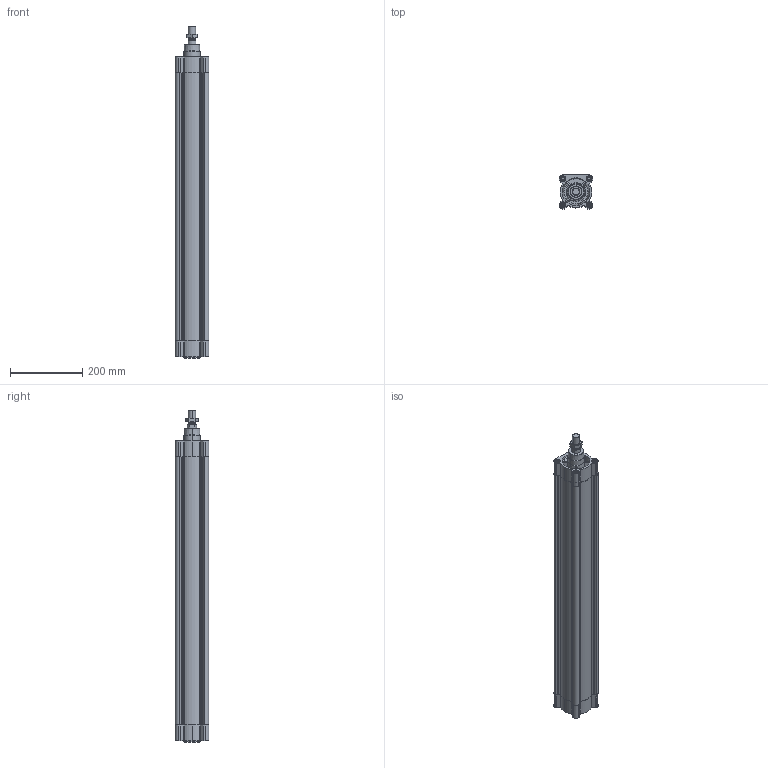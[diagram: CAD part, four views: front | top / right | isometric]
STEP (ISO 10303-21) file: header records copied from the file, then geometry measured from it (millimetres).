
FILE_DESCRIPTION (( 'STEP AP203' ), '1' );
FILE_NAME ('CPME80-700.STEP', '2024-09-23T14:59:52', ( '' ), ( '' ), 'SwSTEP 2.0', 'SolidWorks 2019', '' );
FILE_SCHEMA (( 'CONFIG_CONTROL_DESIGN' ));
Length unit declared in the file: millimetre
Products named in the file (1): CPME80-700
Bounding box: 93 x 93 x 917.6 mm (x, y, z)
Volume: 2841175.8 mm3; surface area: 700052.7 mm2
Topology: 3 solids, 3 shells, 533 faces, 1359 edges, 870 vertices
Faces by surface type: plane 207, cylinder 200, cone 98, torus 28
Entity records: 18683 total; most frequent: CARTESIAN_POINT 5639, DIRECTION 2751, ORIENTED_EDGE 2718, EDGE_CURVE 1359, AXIS2_PLACEMENT_3D 1049, VERTEX_POINT 870, LINE 653, VECTOR 653
